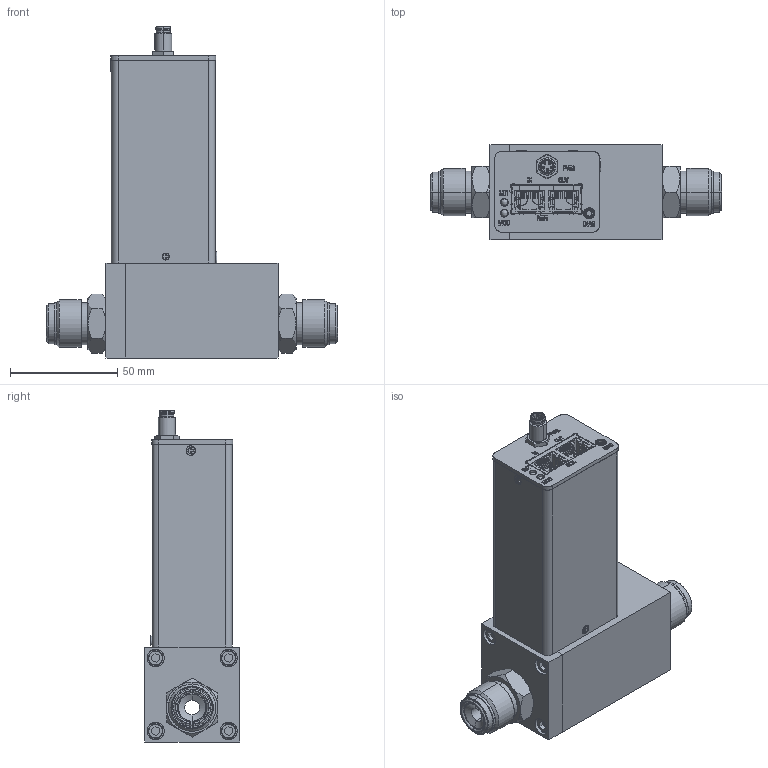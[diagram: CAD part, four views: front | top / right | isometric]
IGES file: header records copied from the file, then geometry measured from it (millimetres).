
Start section: SolidWorks IGES file using analytic representation for surfaces
Global section: file name: G:\Engineering\CAD MODELS FOR SALES\CAD MODEL STORAGE\SLA\SLA5861\CUSTOMER FILES\IGES\SLA5861-E-1L-0-A-REVB.IGS; native system: SolidWorks 2017; preprocessor: SolidWorks 2017; author: CFehr; date: 171213.074450; units: inch
Bounding box: 135.38 x 44.3 x 154.43 mm (x, y, z)
Surface area: 54668.1 mm2 (no closed solid volume)
Topology: 0 solids, 0 shells, 788 faces, 9365 edges, 9341 vertices
Faces by surface type: bspline 568, revolution 220
